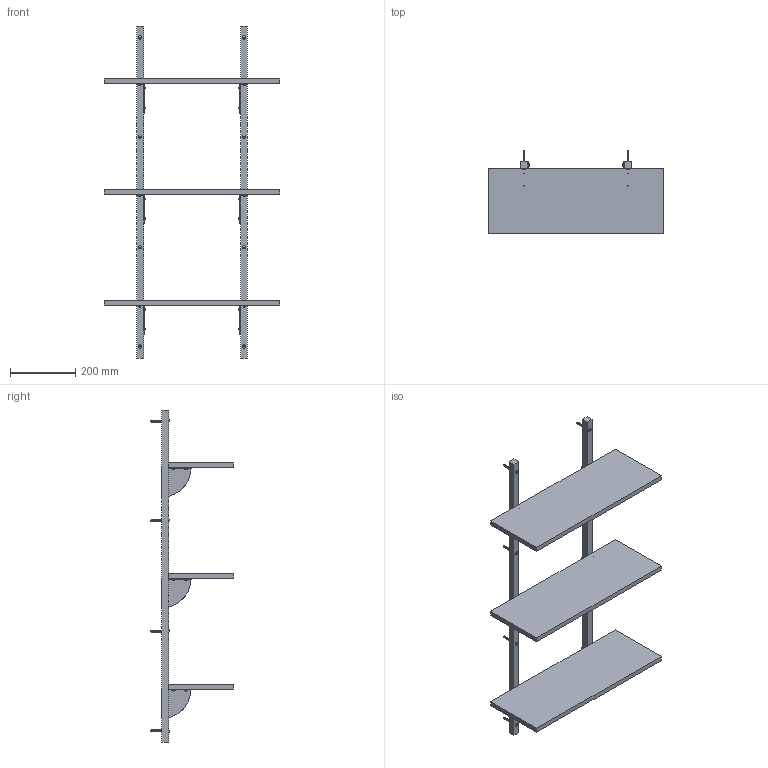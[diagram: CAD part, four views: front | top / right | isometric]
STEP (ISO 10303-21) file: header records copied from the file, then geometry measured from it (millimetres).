
FILE_DESCRIPTION(/* description */ (''),/* implementation_level */ '2;1');
FILE_NAME(/* name */ 'SR2THB~Y',/* time_stamp */ '2020-03-27T16:01:04+01:00',/* author */ (''),/* organization */ (''),/* preprocessor_version */ 'ST-DEVELOPER v16.5',/* originating_system */ '',/* authorisation */ '');
FILE_SCHEMA (('AUTOMOTIVE_DESIGN'));
Length unit declared in the file: millimetre
Products named in the file (1): Document
Bounding box: 540 x 256.07 x 1020 mm (x, y, z)
Volume: 5869319.3 mm3; surface area: 1012251.3 mm2
Topology: 89 solids, 281 shells, 744 faces, 2166 edges, 1598 vertices
Faces by surface type: plane 374, bspline 370
Entity records: 120556 total; most frequent: CARTESIAN_POINT 106037, ORIENTED_EDGE 3140, EDGE_CURVE 2002, VERTEX_POINT 1580, B_SPLINE_CURVE_WITH_KNOTS 1196, EDGE_LOOP 792, ADVANCED_FACE 744, FACE_OUTER_BOUND 744
